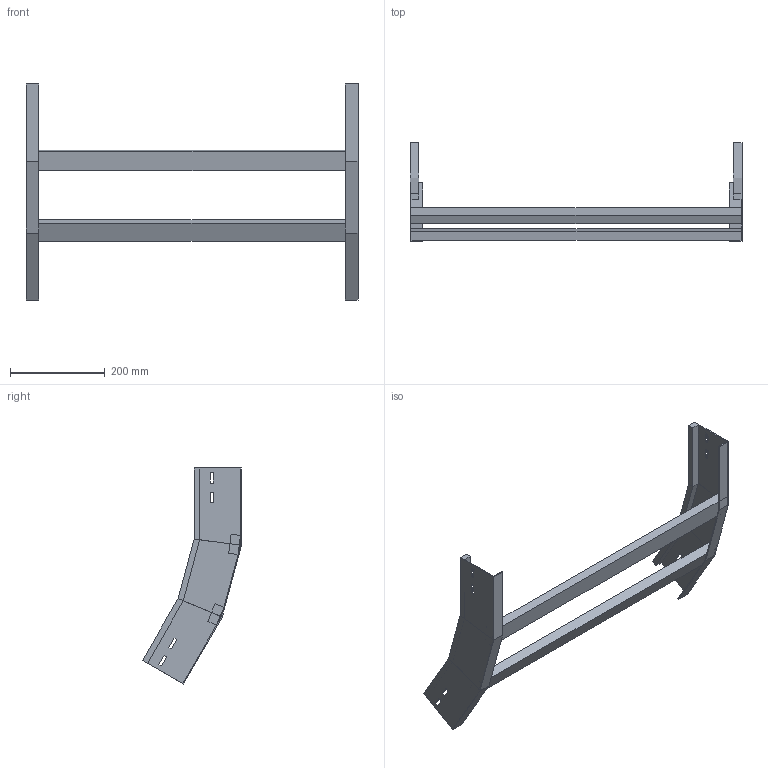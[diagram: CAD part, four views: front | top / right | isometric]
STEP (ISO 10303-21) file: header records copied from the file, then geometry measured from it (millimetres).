
FILE_DESCRIPTION (( 'STEP AP214' ), '1' );
FILE_NAME ('A2X32B5D700XX.step', '2025-03-20T09:57:47', ( '' ), ( '' ), 'SwSTEP 2.0', 'SolidWorks 2023', '' );
FILE_SCHEMA (( 'AUTOMOTIVE_DESIGN' ));
Length unit declared in the file: millimetre
Products named in the file (3): A2X32B5D700XX; TRAVERSINO_700; LONGH.SALITA_30°_H100_R500
Assembly tree (4 placements, depth 2):
  A2X32B5D700XX
    LONGH.SALITA_30°_H100_R500  x2
    TRAVERSINO_700  x2
Bounding box: 700 x 208.63 x 455.43 mm (x, y, z)
Volume: 1522081 mm3; surface area: 433987.6 mm2
Topology: 4 solids, 4 shells, 96 faces, 232 edges, 144 vertices
Faces by surface type: plane 96
Entity records: 1472 total; most frequent: CARTESIAN_POINT 243, ORIENTED_EDGE 232, DIRECTION 226, EDGE_CURVE 116, VECTOR 116, LINE 116, VERTEX_POINT 72, EDGE_LOOP 56
